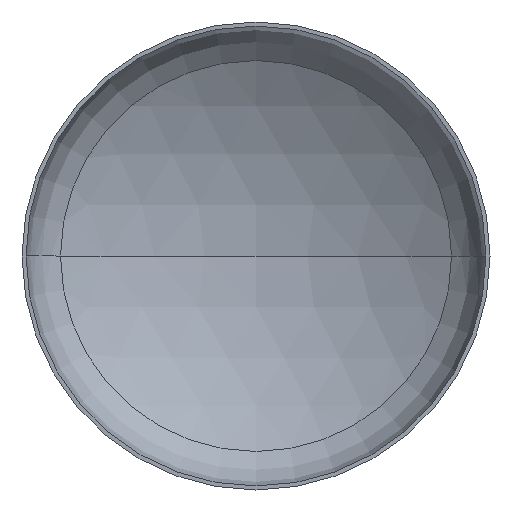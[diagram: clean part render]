
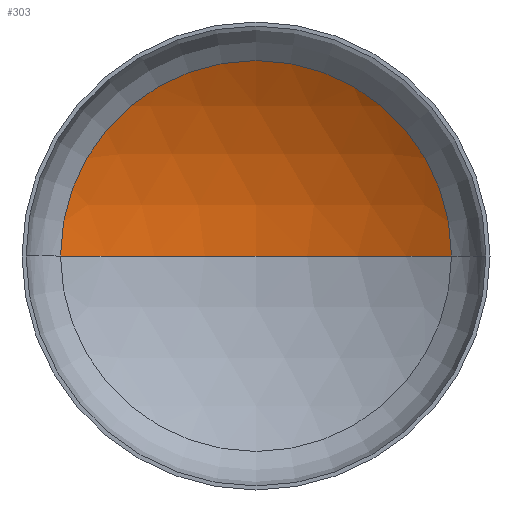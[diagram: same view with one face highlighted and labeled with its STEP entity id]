
A CAD part, front view. The second image highlights one B-rep face of the part: STEP entity #303.
In plain terms, the highlighted spherical face has radius 2880 mm.
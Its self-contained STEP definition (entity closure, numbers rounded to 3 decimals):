
#3 = AXIS2_PLACEMENT_3D ( 'NONE', #381, #249, #399 ) ;
#4 = AXIS2_PLACEMENT_3D ( 'NONE', #285, #149, #306 ) ;
#21 = VERTEX_POINT ( 'NONE', #389 ) ;
#26 = AXIS2_PLACEMENT_3D ( 'NONE', #153, #166, #170 ) ;
#31 = ORIENTED_EDGE ( 'NONE', *, *, #393, .T. ) ;
#39 = ORIENTED_EDGE ( 'NONE', *, *, #351, .T. ) ;
#50 = AXIS2_PLACEMENT_3D ( 'NONE', #271, #227, #284 ) ;
#72 = VERTEX_POINT ( 'NONE', #258 ) ;
#79 = VERTEX_POINT ( 'NONE', #254 ) ;
#87 = ORIENTED_EDGE ( 'NONE', *, *, #390, .F. ) ;
#100 = EDGE_LOOP ( 'NONE', ( #87, #31, #39 ) ) ;
#149 = DIRECTION ( 'NONE',  ( 0., 0., -1. ) ) ;
#153 = CARTESIAN_POINT ( 'NONE',  ( 0., 573.334, 0. ) ) ;
#154 = SPHERICAL_SURFACE ( 'NONE', #50, 2880. ) ;
#166 = DIRECTION ( 'NONE',  ( 0., -1., 0. ) ) ;
#170 = DIRECTION ( 'NONE',  ( 1., 0., 0. ) ) ;
#181 = CIRCLE ( 'NONE', #3, 2880. ) ;
#197 = CIRCLE ( 'NONE', #26, 1503.794 ) ;
#227 = DIRECTION ( 'NONE',  ( 0., 0., -1. ) ) ;
#249 = DIRECTION ( 'NONE',  ( 0., 0., 1. ) ) ;
#254 = CARTESIAN_POINT ( 'NONE',  ( 1503.794, 573.334, 0. ) ) ;
#258 = CARTESIAN_POINT ( 'NONE',  ( 0., 997.116, 0. ) ) ;
#271 = CARTESIAN_POINT ( 'NONE',  ( 0., -1882.884, 0. ) ) ;
#275 = FACE_OUTER_BOUND ( 'NONE', #100, .T. ) ;
#284 = DIRECTION ( 'NONE',  ( -1., 0., 0. ) ) ;
#285 = CARTESIAN_POINT ( 'NONE',  ( 0., -1882.884, 0. ) ) ;
#303 = ADVANCED_FACE ( 'NONE', ( #275 ), #154, .F. ) ;
#306 = DIRECTION ( 'NONE',  ( -1., 0., 0. ) ) ;
#351 = EDGE_CURVE ( 'NONE', #79, #21, #197, .T. ) ;
#381 = CARTESIAN_POINT ( 'NONE',  ( 0., -1882.884, 0. ) ) ;
#389 = CARTESIAN_POINT ( 'NONE',  ( -1503.794, 573.334, 0. ) ) ;
#390 = EDGE_CURVE ( 'NONE', #72, #21, #181, .T. ) ;
#393 = EDGE_CURVE ( 'NONE', #72, #79, #411, .T. ) ;
#399 = DIRECTION ( 'NONE',  ( 1., 0., 0. ) ) ;
#411 = CIRCLE ( 'NONE', #4, 2880. ) ;
